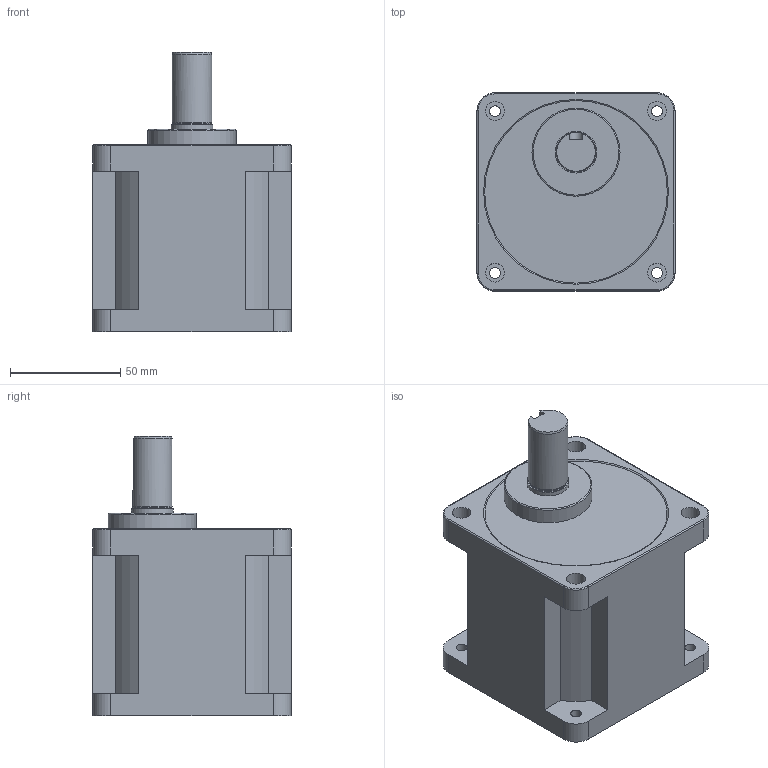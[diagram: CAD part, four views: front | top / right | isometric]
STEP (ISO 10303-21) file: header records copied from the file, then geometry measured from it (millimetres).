
FILE_DESCRIPTION((''),'2;1');
FILE_NAME('C:\Users\AHN\Desktop\K9P□BU-K6.stp','2021-02-08T10:08:36',('AHN'),(''),'Autodesk Inventor 2009','Autodesk Inventor 2009','');
FILE_SCHEMA(('AUTOMOTIVE_DESIGN { 1 0 10303 214 1 1 1 1 }'));
Length unit declared in the file: millimetre
Products named in the file (1): K9P□BU
Bounding box: 90 x 90 x 127 mm (x, y, z)
Volume: 607711 mm3; surface area: 52013.7 mm2
Topology: 1 solids, 1 shells, 67 faces, 172 edges, 111 vertices
Faces by surface type: cylinder 29, plane 29, torus 8, cone 1
Full cylindrical faces by diameter (mm): 5 x4, 8.5 x4, 17.7 x1, 18 x1, 19 x1, 40 x1
Entity records: 2049 total; most frequent: CARTESIAN_POINT 379, DIRECTION 353, ORIENTED_EDGE 310, EDGE_CURVE 155, AXIS2_PLACEMENT_3D 134, VERTEX_POINT 110, EDGE_LOOP 103, VECTOR 85
